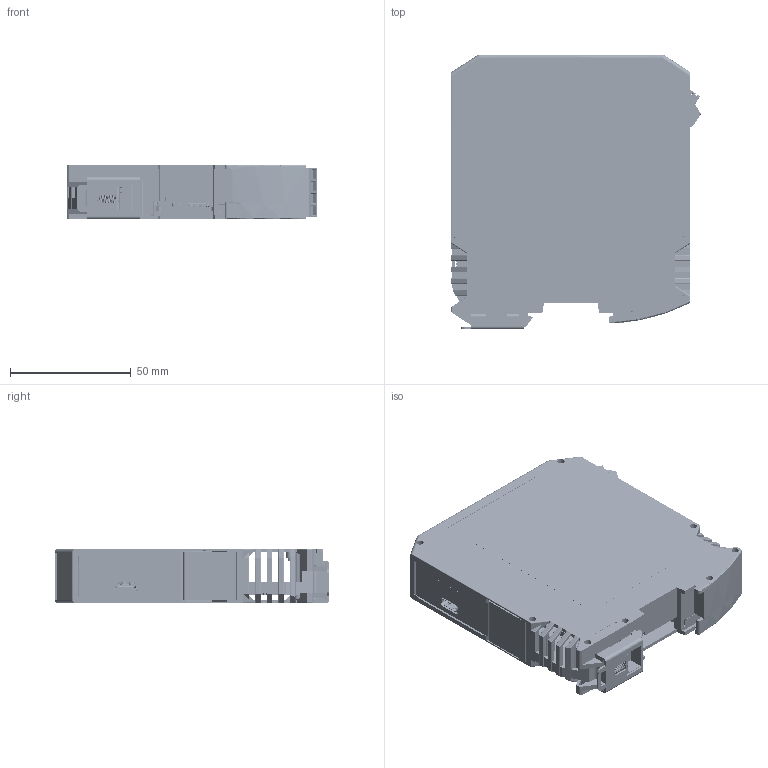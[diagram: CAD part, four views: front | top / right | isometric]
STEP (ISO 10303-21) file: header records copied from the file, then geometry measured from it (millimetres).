
FILE_DESCRIPTION (( 'STEP AP214' ), '1' );
FILE_NAME ('AX070550_Generic STEP file.STEP', '2025-10-31T15:07:47', ( '' ), ( '' ), 'SwSTEP 2.0', 'SolidWorks 2023', '' );
FILE_SCHEMA (( 'AUTOMOTIVE_DESIGN' ));
Length unit declared in the file: millimetre
Products named in the file (14): ME_MAX_B-22.5-KMGY 2707929; LBM-AX070550-02-R1 for STEP_LBM-AX070550-02-R1; ME_MAX_22.5_DKL_CL_H.Select__00472368; LBM-AX070550-03-R1_LBM-AX070550-02-R1; VAL-M_FEDER_0.5MM_vorgespannt_H.Select_00757586; PHO PSPT 2,5 4-ST KMGY; MPL-21020-01-R2 no holes; ME_MAX_22.5_GEH-R_CL_3-U1_H.Select__00711620; AX070550_Generic STEP file; PCB-24020-01-R1-Oct22; PHO MSTBO 2.5-4-G1R; ME_MAX_GEH-L_CL_3-U1_H.Select__00711317; Fussriegel_17.5_L30_H.Select__00315466; LBM-AX070550-01-R1_LBM-AX070550-01-R1
Assembly tree (15 placements, depth 2):
  AX070550_Generic STEP file
    PHO PSPT 2,5 4-ST KMGY
    LBM-AX070550-01-R1_LBM-AX070550-01-R1
    LBM-AX070550-02-R1 for STEP_LBM-AX070550-02-R1
    LBM-AX070550-03-R1_LBM-AX070550-02-R1
    ME_MAX_22.5_GEH-R_CL_3-U1_H.Select__00711620
    ME_MAX_B-22.5-KMGY 2707929  x3
    ME_MAX_GEH-L_CL_3-U1_H.Select__00711317
    PCB-24020-01-R1-Oct22
    PHO MSTBO 2.5-4-G1R
    MPL-21020-01-R2 no holes
    Fussriegel_17.5_L30_H.Select__00315466
    ME_MAX_22.5_DKL_CL_H.Select__00472368
    VAL-M_FEDER_0.5MM_vorgespannt_H.Select_00757586
Bounding box: 103.39 x 113.7 x 22.65 mm (x, y, z)
Volume: 61811 mm3; surface area: 107578.1 mm2
Topology: 761 solids, 761 shells, 16163 faces, 41118 edges, 26228 vertices
Faces by surface type: plane 11224, cylinder 4036, sphere 528, bspline 233, torus 90, cone 52
Entity records: 652252 total; most frequent: CARTESIAN_POINT 99099, ORIENTED_EDGE 80848, DIRECTION 78718, EDGE_CURVE 40424, LINE 31276, VECTOR 31276, VERTEX_POINT 26096, AXIS2_PLACEMENT_3D 23721
